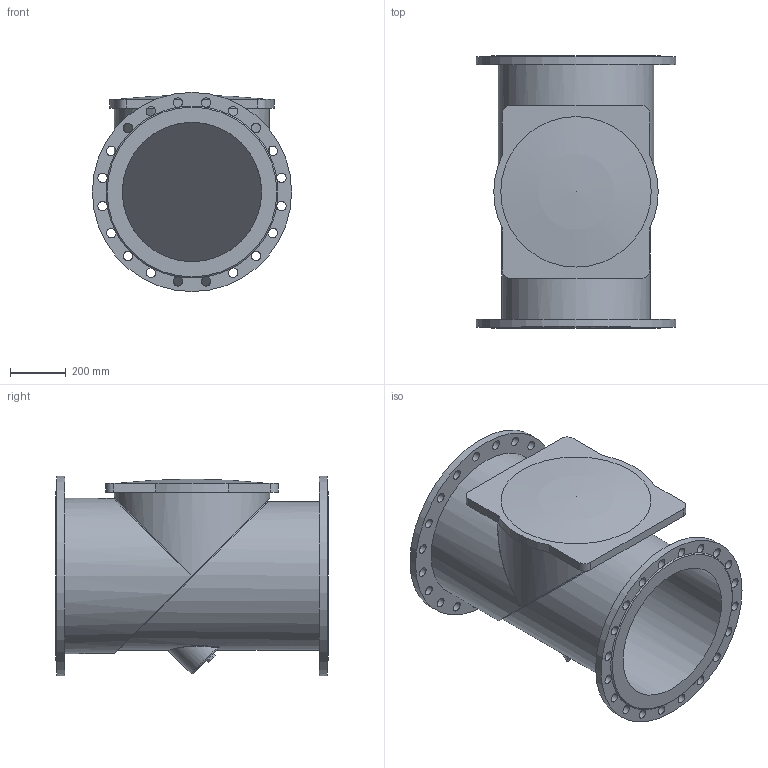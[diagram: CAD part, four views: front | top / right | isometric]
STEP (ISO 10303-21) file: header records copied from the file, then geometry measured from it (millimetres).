
FILE_DESCRIPTION(('STEP AP203'), '1');
FILE_NAME('Êëàïàí îäíîñòâîð÷àòûé îáðàòíûé ôëàíöåâûé 015F.Z DN500 PN16', '', ('UNSPECIFIED'), ('UNSPECIFIED'), 'ASCON STEP Converter 1.6', 'ASCON Math Kernel', '');
FILE_SCHEMA(('CONFIG_CONTROL_DESIGN'));
Length unit declared in the file: millimetre
Bounding box: 715 x 978 x 715 mm (x, y, z)
Volume: 69247411.1 mm3; surface area: 5133663.8 mm2
Topology: 1 solids, 2 shells, 94 faces, 351 edges, 230 vertices
Faces by surface type: cylinder 57, plane 27, bspline 6, cone 2, torus 1, sphere 1
Full cylindrical faces by diameter (mm): 34 x40, 500 x2, 525 x1, 532 x1, 557 x2, 715 x2
Entity records: 7599 total; most frequent: CARTESIAN_POINT 3896, DIRECTION 602, ORIENTED_EDGE 592, EDGE_CURVE 296, AXIS2_PLACEMENT_3D 280, VERTEX_POINT 229, EDGE_LOOP 197, CIRCLE 191
